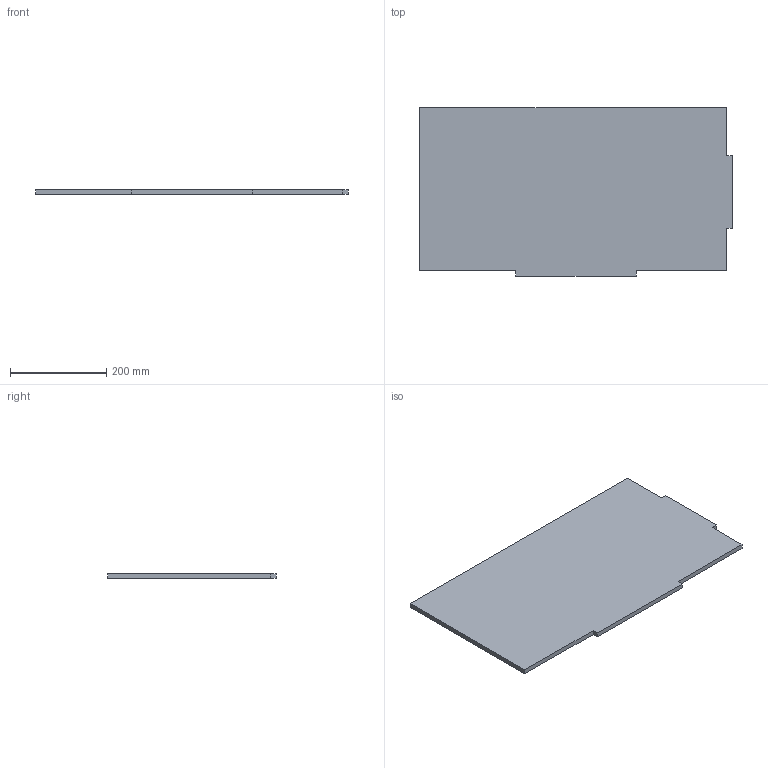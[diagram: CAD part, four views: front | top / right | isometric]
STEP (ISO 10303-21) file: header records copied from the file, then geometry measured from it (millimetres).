
FILE_DESCRIPTION (( 'STEP AP214' ), '1' );
FILE_NAME ('down side.STEP', '2024-10-17T15:59:24', ( '' ), ( '' ), 'SwSTEP 2.0', 'SolidWorks 2020', '' );
FILE_SCHEMA (( 'AUTOMOTIVE_DESIGN' ));
Length unit declared in the file: millimetre
Products named in the file (1): down side
Bounding box: 650 x 350 x 10 mm (x, y, z)
Volume: 2204440 mm3; surface area: 460888 mm2
Topology: 1 solids, 1 shells, 14 faces, 36 edges, 24 vertices
Faces by surface type: plane 14
Entity records: 454 total; most frequent: CARTESIAN_POINT 75, ORIENTED_EDGE 72, DIRECTION 66, LINE 36, VECTOR 36, EDGE_CURVE 36, VERTEX_POINT 24, AXIS2_PLACEMENT_3D 15
